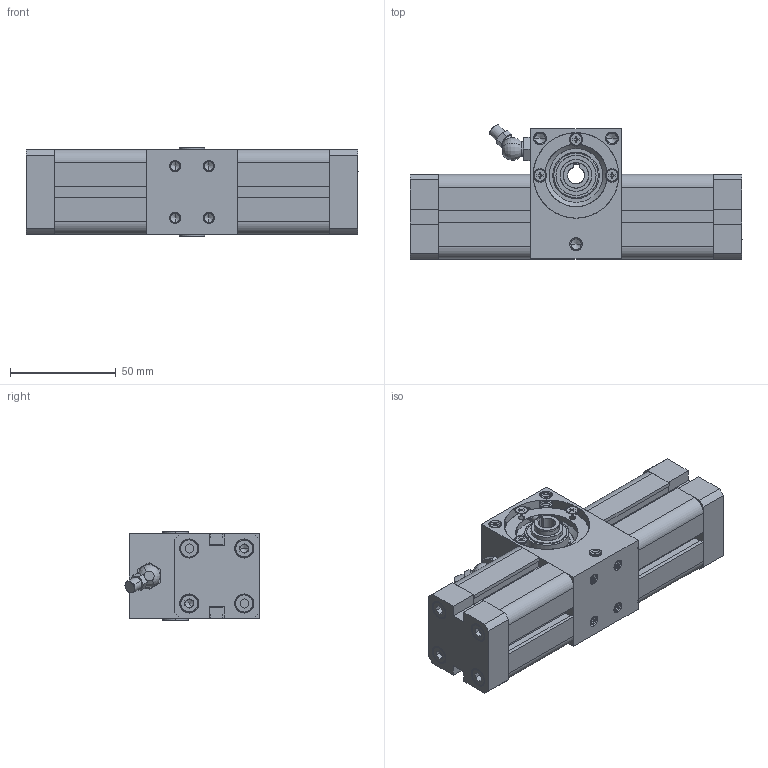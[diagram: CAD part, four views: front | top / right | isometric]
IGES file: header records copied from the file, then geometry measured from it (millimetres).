
Start section: SolidWorks IGES file using analytic representation for surfaces
Global section: file name: c:\CATALO3D\IGS\CRX25.90°.10.IGS; native system: SolidWorks 2005 by SolidWorks Corporation; preprocessor: SolidWorks 2005 by SolidWorks Corporation; author: tania; date: 051111.155646; units: millimetre
Bounding box: 157 x 63.42 x 42 mm (x, y, z)
Surface area: 87901.1 mm2 (no closed solid volume)
Topology: 0 solids, 0 shells, 1452 faces, 27943 edges, 34606 vertices
Faces by surface type: revolution 859, bspline 593
